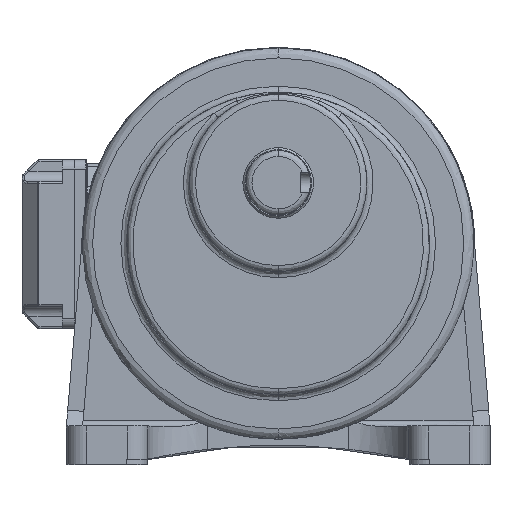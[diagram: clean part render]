
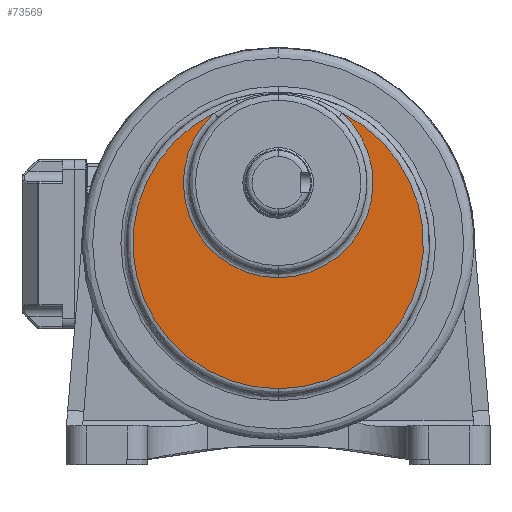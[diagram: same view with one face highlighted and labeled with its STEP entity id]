
A CAD part, top view. The second image highlights one B-rep face of the part: STEP entity #73569.
In plain terms, the highlighted planar face has unit normal (0, 0, 1).
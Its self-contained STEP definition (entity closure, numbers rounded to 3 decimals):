
#6784 = CIRCLE ( 'NONE', #95034, 72. ) ;
#8000 = PLANE ( 'NONE',  #57548 ) ;
#9457 = DIRECTION ( 'NONE',  ( 0., 0., 1. ) ) ;
#13912 = ORIENTED_EDGE ( 'NONE', *, *, #109108, .T. ) ;
#25959 = CIRCLE ( 'NONE', #128104, 47. ) ;
#29088 = FACE_OUTER_BOUND ( 'NONE', #86896, .T. ) ;
#31701 = ORIENTED_EDGE ( 'NONE', *, *, #62925, .T. ) ;
#32222 = DIRECTION ( 'NONE',  ( 0., 0., -1. ) ) ;
#33610 = VERTEX_POINT ( 'NONE', #84702 ) ;
#41026 = CARTESIAN_POINT ( 'NONE',  ( 43.841, 126.278, 82.336 ) ) ;
#43562 = CARTESIAN_POINT ( 'NONE',  ( 43.841, 96.278, 82.336 ) ) ;
#45310 = CARTESIAN_POINT ( 'NONE',  ( 43.841, 126.278, 82.336 ) ) ;
#51365 = CARTESIAN_POINT ( 'NONE',  ( 75.669, 160.861, 82.336 ) ) ;
#52879 = AXIS2_PLACEMENT_3D ( 'NONE', #143948, #56669, #101047 ) ;
#53642 = VERTEX_POINT ( 'NONE', #51365 ) ;
#55349 = CIRCLE ( 'NONE', #83243, 47. ) ;
#56669 = DIRECTION ( 'NONE',  ( 0., 0., 1. ) ) ;
#56882 = EDGE_CURVE ( 'NONE', #96307, #33610, #6784, .T. ) ;
#57548 = AXIS2_PLACEMENT_3D ( 'NONE', #74167, #9457, #119297 ) ;
#62925 = EDGE_CURVE ( 'NONE', #53642, #138547, #25959, .T. ) ;
#73569 = ADVANCED_FACE ( 'NONE', ( #29088 ), #8000, .T. ) ;
#73675 = EDGE_CURVE ( 'NONE', #33610, #53642, #101682, .T. ) ;
#74167 = CARTESIAN_POINT ( 'NONE',  ( 121.841, 174.341, 82.336 ) ) ;
#76573 = DIRECTION ( 'NONE',  ( 0., -1., 0. ) ) ;
#83243 = AXIS2_PLACEMENT_3D ( 'NONE', #41026, #142794, #96313 ) ;
#84702 = CARTESIAN_POINT ( 'NONE',  ( 43.841, 24.278, 82.336 ) ) ;
#86896 = EDGE_LOOP ( 'NONE', ( #105115, #94469, #31701, #13912 ) ) ;
#94469 = ORIENTED_EDGE ( 'NONE', *, *, #73675, .T. ) ;
#95034 = AXIS2_PLACEMENT_3D ( 'NONE', #43562, #119232, #99545 ) ;
#96307 = VERTEX_POINT ( 'NONE', #116817 ) ;
#96313 = DIRECTION ( 'NONE',  ( 0., -1., 0. ) ) ;
#99545 = DIRECTION ( 'NONE',  ( 0., -1., 0. ) ) ;
#101047 = DIRECTION ( 'NONE',  ( 0., -1., 0. ) ) ;
#101682 = CIRCLE ( 'NONE', #52879, 72. ) ;
#105115 = ORIENTED_EDGE ( 'NONE', *, *, #56882, .T. ) ;
#109108 = EDGE_CURVE ( 'NONE', #138547, #96307, #55349, .T. ) ;
#116817 = CARTESIAN_POINT ( 'NONE',  ( 12.014, 160.861, 82.336 ) ) ;
#119232 = DIRECTION ( 'NONE',  ( 0., 0., 1. ) ) ;
#119297 = DIRECTION ( 'NONE',  ( 1., 0., 0. ) ) ;
#128104 = AXIS2_PLACEMENT_3D ( 'NONE', #45310, #32222, #76573 ) ;
#138547 = VERTEX_POINT ( 'NONE', #140263 ) ;
#140263 = CARTESIAN_POINT ( 'NONE',  ( 43.841, 79.278, 82.336 ) ) ;
#142794 = DIRECTION ( 'NONE',  ( 0., 0., -1. ) ) ;
#143948 = CARTESIAN_POINT ( 'NONE',  ( 43.841, 96.278, 82.336 ) ) ;
